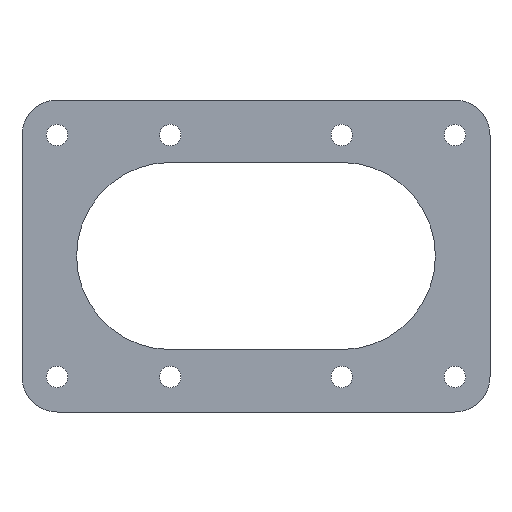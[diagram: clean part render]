
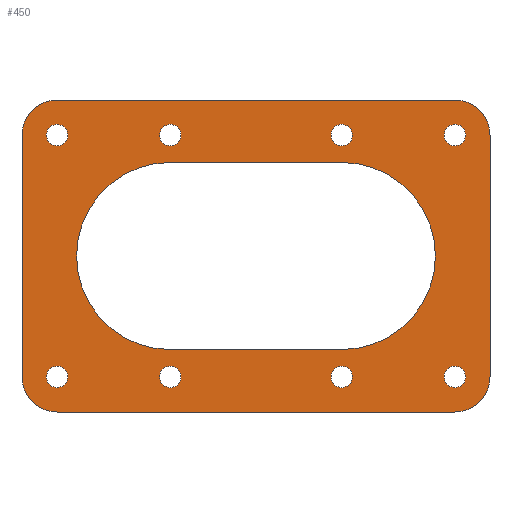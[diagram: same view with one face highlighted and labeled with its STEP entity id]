
A CAD part, left-side view. The second image highlights one B-rep face of the part: STEP entity #450.
In plain terms, the highlighted planar face has unit normal (-1, 0, 0).
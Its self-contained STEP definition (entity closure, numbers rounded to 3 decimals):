
#24=FACE_BOUND('',#94,.T.);
#25=FACE_BOUND('',#95,.T.);
#26=FACE_BOUND('',#96,.T.);
#27=FACE_BOUND('',#97,.T.);
#28=FACE_BOUND('',#98,.T.);
#29=FACE_BOUND('',#99,.T.);
#30=FACE_BOUND('',#100,.T.);
#31=FACE_BOUND('',#101,.T.);
#32=FACE_BOUND('',#102,.T.);
#40=PLANE('',#523);
#62=FACE_OUTER_BOUND('',#93,.T.);
#93=EDGE_LOOP('',(#395,#396,#397,#398,#399,#400,#401,#402));
#94=EDGE_LOOP('',(#403));
#95=EDGE_LOOP('',(#404));
#96=EDGE_LOOP('',(#405));
#97=EDGE_LOOP('',(#406));
#98=EDGE_LOOP('',(#407));
#99=EDGE_LOOP('',(#408));
#100=EDGE_LOOP('',(#409));
#101=EDGE_LOOP('',(#410));
#102=EDGE_LOOP('',(#411,#412,#413,#414));
#113=LINE('',#714,#145);
#117=LINE('',#726,#149);
#123=LINE('',#745,#155);
#129=LINE('',#766,#161);
#133=LINE('',#777,#165);
#134=LINE('',#779,#166);
#145=VECTOR('',#586,10.);
#149=VECTOR('',#598,10.);
#155=VECTOR('',#618,10.);
#161=VECTOR('',#638,10.);
#165=VECTOR('',#652,10.);
#166=VECTOR('',#655,10.);
#167=CIRCLE('',#475,2.75);
#169=CIRCLE('',#478,2.75);
#171=CIRCLE('',#481,2.75);
#173=CIRCLE('',#484,2.75);
#175=CIRCLE('',#487,2.75);
#177=CIRCLE('',#490,2.75);
#179=CIRCLE('',#493,2.75);
#181=CIRCLE('',#496,2.75);
#184=CIRCLE('',#501,24.);
#186=CIRCLE('',#505,24.);
#188=CIRCLE('',#508,9.);
#192=CIRCLE('',#515,9.);
#193=CIRCLE('',#518,9.);
#194=CIRCLE('',#520,9.);
#195=VERTEX_POINT('',#660);
#197=VERTEX_POINT('',#666);
#199=VERTEX_POINT('',#672);
#201=VERTEX_POINT('',#678);
#203=VERTEX_POINT('',#684);
#205=VERTEX_POINT('',#690);
#207=VERTEX_POINT('',#696);
#209=VERTEX_POINT('',#702);
#213=VERTEX_POINT('',#711);
#214=VERTEX_POINT('',#713);
#216=VERTEX_POINT('',#719);
#218=VERTEX_POINT('',#725);
#221=VERTEX_POINT('',#735);
#222=VERTEX_POINT('',#737);
#224=VERTEX_POINT('',#743);
#230=VERTEX_POINT('',#759);
#231=VERTEX_POINT('',#761);
#232=VERTEX_POINT('',#765);
#233=VERTEX_POINT('',#769);
#234=VERTEX_POINT('',#773);
#235=EDGE_CURVE('',#195,#195,#167,.T.);
#238=EDGE_CURVE('',#197,#197,#169,.T.);
#241=EDGE_CURVE('',#199,#199,#171,.T.);
#244=EDGE_CURVE('',#201,#201,#173,.T.);
#247=EDGE_CURVE('',#203,#203,#175,.T.);
#250=EDGE_CURVE('',#205,#205,#177,.T.);
#253=EDGE_CURVE('',#207,#207,#179,.T.);
#256=EDGE_CURVE('',#209,#209,#181,.T.);
#261=EDGE_CURVE('',#214,#213,#113,.T.);
#264=EDGE_CURVE('',#216,#214,#184,.T.);
#267=EDGE_CURVE('',#218,#216,#117,.T.);
#270=EDGE_CURVE('',#213,#218,#186,.T.);
#273=EDGE_CURVE('',#221,#222,#188,.T.);
#277=EDGE_CURVE('',#221,#224,#123,.T.);
#285=EDGE_CURVE('',#230,#231,#192,.T.);
#287=EDGE_CURVE('',#232,#231,#129,.T.);
#289=EDGE_CURVE('',#232,#233,#193,.T.);
#292=EDGE_CURVE('',#234,#224,#194,.T.);
#293=EDGE_CURVE('',#234,#233,#133,.T.);
#294=EDGE_CURVE('',#230,#222,#134,.T.);
#395=ORIENTED_EDGE('',*,*,#273,.F.);
#396=ORIENTED_EDGE('',*,*,#277,.T.);
#397=ORIENTED_EDGE('',*,*,#292,.F.);
#398=ORIENTED_EDGE('',*,*,#293,.T.);
#399=ORIENTED_EDGE('',*,*,#289,.F.);
#400=ORIENTED_EDGE('',*,*,#287,.T.);
#401=ORIENTED_EDGE('',*,*,#285,.F.);
#402=ORIENTED_EDGE('',*,*,#294,.T.);
#403=ORIENTED_EDGE('',*,*,#235,.T.);
#404=ORIENTED_EDGE('',*,*,#238,.T.);
#405=ORIENTED_EDGE('',*,*,#241,.T.);
#406=ORIENTED_EDGE('',*,*,#244,.T.);
#407=ORIENTED_EDGE('',*,*,#247,.T.);
#408=ORIENTED_EDGE('',*,*,#250,.T.);
#409=ORIENTED_EDGE('',*,*,#253,.T.);
#410=ORIENTED_EDGE('',*,*,#256,.T.);
#411=ORIENTED_EDGE('',*,*,#267,.T.);
#412=ORIENTED_EDGE('',*,*,#264,.T.);
#413=ORIENTED_EDGE('',*,*,#261,.T.);
#414=ORIENTED_EDGE('',*,*,#270,.T.);
#450=ADVANCED_FACE('',(#62,#24,#25,#26,#27,#28,#29,#30,#31,#32),#40,.F.);
#475=AXIS2_PLACEMENT_3D('',#661,#528,#529);
#478=AXIS2_PLACEMENT_3D('',#667,#535,#536);
#481=AXIS2_PLACEMENT_3D('',#673,#542,#543);
#484=AXIS2_PLACEMENT_3D('',#679,#549,#550);
#487=AXIS2_PLACEMENT_3D('',#685,#556,#557);
#490=AXIS2_PLACEMENT_3D('',#691,#563,#564);
#493=AXIS2_PLACEMENT_3D('',#697,#570,#571);
#496=AXIS2_PLACEMENT_3D('',#703,#577,#578);
#501=AXIS2_PLACEMENT_3D('',#720,#592,#593);
#505=AXIS2_PLACEMENT_3D('',#730,#604,#605);
#508=AXIS2_PLACEMENT_3D('',#738,#611,#612);
#515=AXIS2_PLACEMENT_3D('',#762,#633,#634);
#518=AXIS2_PLACEMENT_3D('',#770,#642,#643);
#520=AXIS2_PLACEMENT_3D('',#775,#648,#649);
#523=AXIS2_PLACEMENT_3D('',#780,#656,#657);
#528=DIRECTION('center_axis',(1.,0.,0.));
#529=DIRECTION('ref_axis',(0.,0.,1.));
#535=DIRECTION('center_axis',(1.,0.,0.));
#536=DIRECTION('ref_axis',(0.,0.,1.));
#542=DIRECTION('center_axis',(1.,0.,0.));
#543=DIRECTION('ref_axis',(0.,0.,1.));
#549=DIRECTION('center_axis',(1.,0.,0.));
#550=DIRECTION('ref_axis',(0.,0.,1.));
#556=DIRECTION('center_axis',(1.,0.,0.));
#557=DIRECTION('ref_axis',(0.,0.,1.));
#563=DIRECTION('center_axis',(1.,0.,0.));
#564=DIRECTION('ref_axis',(0.,0.,1.));
#570=DIRECTION('center_axis',(1.,0.,0.));
#571=DIRECTION('ref_axis',(0.,0.,1.));
#577=DIRECTION('center_axis',(1.,0.,0.));
#578=DIRECTION('ref_axis',(0.,0.,1.));
#586=DIRECTION('',(0.,-1.,0.));
#592=DIRECTION('center_axis',(1.,0.,0.));
#593=DIRECTION('ref_axis',(0.,0.,-1.));
#598=DIRECTION('',(0.,1.,0.));
#604=DIRECTION('center_axis',(1.,0.,0.));
#605=DIRECTION('ref_axis',(0.,0.,-1.));
#611=DIRECTION('center_axis',(1.,0.,0.));
#612=DIRECTION('ref_axis',(0.,-0.707,0.707));
#618=DIRECTION('',(0.,1.,0.));
#633=DIRECTION('center_axis',(1.,0.,0.));
#634=DIRECTION('ref_axis',(0.,-0.707,-0.707));
#638=DIRECTION('',(0.,-1.,0.));
#642=DIRECTION('center_axis',(1.,0.,0.));
#643=DIRECTION('ref_axis',(0.,0.707,-0.707));
#648=DIRECTION('center_axis',(1.,0.,0.));
#649=DIRECTION('ref_axis',(0.,0.707,0.707));
#652=DIRECTION('',(0.,0.,-1.));
#655=DIRECTION('',(0.,0.,1.));
#656=DIRECTION('center_axis',(1.,0.,0.));
#657=DIRECTION('ref_axis',(0.,0.,-1.));
#660=CARTESIAN_POINT('',(0.,22.,28.25));
#661=CARTESIAN_POINT('Origin',(0.,22.,31.));
#666=CARTESIAN_POINT('',(0.,-22.,-33.75));
#667=CARTESIAN_POINT('Origin',(0.,-22.,-31.));
#672=CARTESIAN_POINT('',(0.,-51.,28.25));
#673=CARTESIAN_POINT('Origin',(0.,-51.,31.));
#678=CARTESIAN_POINT('',(0.,51.,-33.75));
#679=CARTESIAN_POINT('Origin',(0.,51.,-31.));
#684=CARTESIAN_POINT('',(0.,51.,28.25));
#685=CARTESIAN_POINT('Origin',(0.,51.,31.));
#690=CARTESIAN_POINT('',(0.,-51.,-33.75));
#691=CARTESIAN_POINT('Origin',(0.,-51.,-31.));
#696=CARTESIAN_POINT('',(0.,22.,-33.75));
#697=CARTESIAN_POINT('Origin',(0.,22.,-31.));
#702=CARTESIAN_POINT('',(0.,-22.,28.25));
#703=CARTESIAN_POINT('Origin',(0.,-22.,31.));
#711=CARTESIAN_POINT('',(0.,-22.,24.));
#713=CARTESIAN_POINT('',(0.,22.,24.));
#714=CARTESIAN_POINT('',(0.,11.,24.));
#719=CARTESIAN_POINT('',(0.,22.,-24.));
#720=CARTESIAN_POINT('Origin',(0.,22.,0.));
#725=CARTESIAN_POINT('',(0.,-22.,-24.));
#726=CARTESIAN_POINT('',(0.,-11.,-24.));
#730=CARTESIAN_POINT('Origin',(0.,-22.,0.));
#735=CARTESIAN_POINT('',(0.,-51.,40.));
#737=CARTESIAN_POINT('',(0.,-60.,31.));
#738=CARTESIAN_POINT('Origin',(0.,-51.,31.));
#743=CARTESIAN_POINT('',(0.,51.,40.));
#745=CARTESIAN_POINT('',(0.,-60.,40.));
#759=CARTESIAN_POINT('',(0.,-60.,-31.));
#761=CARTESIAN_POINT('',(0.,-51.,-40.));
#762=CARTESIAN_POINT('Origin',(0.,-51.,-31.));
#765=CARTESIAN_POINT('',(0.,51.,-40.));
#766=CARTESIAN_POINT('',(0.,60.,-40.));
#769=CARTESIAN_POINT('',(0.,60.,-31.));
#770=CARTESIAN_POINT('Origin',(0.,51.,-31.));
#773=CARTESIAN_POINT('',(0.,60.,31.));
#775=CARTESIAN_POINT('Origin',(0.,51.,31.));
#777=CARTESIAN_POINT('',(0.,60.,40.));
#779=CARTESIAN_POINT('',(0.,-60.,-40.));
#780=CARTESIAN_POINT('Origin',(0.,0.,0.));
